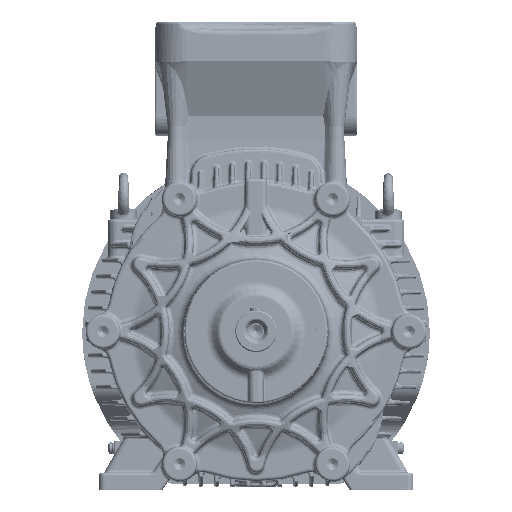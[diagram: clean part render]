
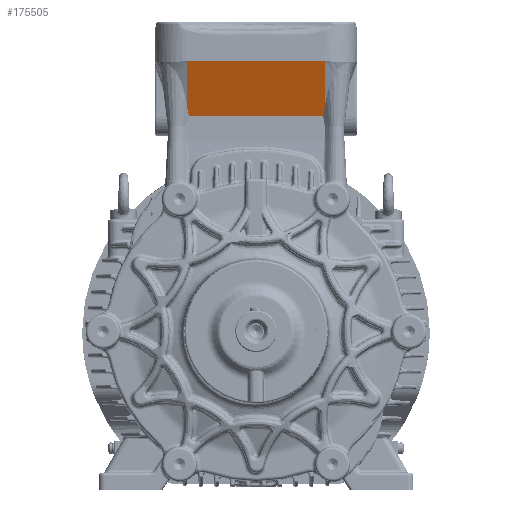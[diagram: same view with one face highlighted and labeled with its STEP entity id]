
A CAD part, top view. The second image highlights one B-rep face of the part: STEP entity #175505.
In plain terms, the highlighted planar face has unit normal (0, -0.342, 0.94).
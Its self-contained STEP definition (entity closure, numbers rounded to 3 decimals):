
#15379 = VERTEX_POINT ( 'NONE', #177046 ) ;
#18210 = LINE ( 'NONE', #69884, #216546 ) ;
#31758 = ORIENTED_EDGE ( 'NONE', *, *, #152058, .T. ) ;
#33534 = VECTOR ( 'NONE', #113603, 1000. ) ;
#35177 = CARTESIAN_POINT ( 'NONE',  ( -69.5, 226.29, 129.817 ) ) ;
#39862 = DIRECTION ( 'NONE',  ( 1., 0., 0. ) ) ;
#40455 = DIRECTION ( 'NONE',  ( -0.176, 0.925, 0.337 ) ) ;
#42384 = VECTOR ( 'NONE', #40455, 1000. ) ;
#44251 = VECTOR ( 'NONE', #39862, 1000. ) ;
#51257 = EDGE_CURVE ( 'NONE', #180551, #249013, #124529, .T. ) ;
#51736 = CARTESIAN_POINT ( 'NONE',  ( 69.5, 226.29, 129.817 ) ) ;
#56634 = CARTESIAN_POINT ( 'NONE',  ( -69.5, 273.5, 147. ) ) ;
#58603 = LINE ( 'NONE', #66804, #232950 ) ;
#60428 = LINE ( 'NONE', #131288, #33534 ) ;
#61135 = ORIENTED_EDGE ( 'NONE', *, *, #51257, .F. ) ;
#61583 = VERTEX_POINT ( 'NONE', #56634 ) ;
#66804 = CARTESIAN_POINT ( 'NONE',  ( 69.5, 273.5, 147. ) ) ;
#69884 = CARTESIAN_POINT ( 'NONE',  ( 16.529, 314.34, 161.865 ) ) ;
#70593 = DIRECTION ( 'NONE',  ( -1., 0., 0. ) ) ;
#77386 = CARTESIAN_POINT ( 'NONE',  ( -72.183, 210.82, 124.186 ) ) ;
#78038 = CARTESIAN_POINT ( 'NONE',  ( -68.054, 218.5, 126.982 ) ) ;
#82135 = DIRECTION ( 'NONE',  ( 0.451, 0.839, 0.305 ) ) ;
#82258 = CARTESIAN_POINT ( 'NONE',  ( -68.027, 218.55, 127. ) ) ;
#87926 = DIRECTION ( 'NONE',  ( 1., 0., 0. ) ) ;
#89618 = LINE ( 'NONE', #131925, #224910 ) ;
#90888 = DIRECTION ( 'NONE',  ( -0.451, 0.839, 0.305 ) ) ;
#91590 = DIRECTION ( 'NONE',  ( 0.176, 0.925, 0.337 ) ) ;
#95962 = VERTEX_POINT ( 'NONE', #160976 ) ;
#112387 = EDGE_CURVE ( 'NONE', #15379, #219771, #89618, .T. ) ;
#113603 = DIRECTION ( 'NONE',  ( 0., 0.94, 0.342 ) ) ;
#124529 = LINE ( 'NONE', #77386, #169656 ) ;
#128630 = DIRECTION ( 'NONE',  ( 0., -0.342, 0.94 ) ) ;
#131288 = CARTESIAN_POINT ( 'NONE',  ( -69.5, 273.5, 147. ) ) ;
#131925 = CARTESIAN_POINT ( 'NONE',  ( 73.898, 249.4, 138.228 ) ) ;
#135557 = CARTESIAN_POINT ( 'NONE',  ( 82.5, 218.5, 126.982 ) ) ;
#135568 = EDGE_LOOP ( 'NONE', ( #227055, #31758, #206914, #155186, #147710, #215311, #174412, #61135 ) ) ;
#143882 = FACE_OUTER_BOUND ( 'NONE', #135568, .T. ) ;
#147710 = ORIENTED_EDGE ( 'NONE', *, *, #240779, .F. ) ;
#151167 = VERTEX_POINT ( 'NONE', #35177 ) ;
#152058 = EDGE_CURVE ( 'NONE', #95962, #15379, #18210, .T. ) ;
#155186 = ORIENTED_EDGE ( 'NONE', *, *, #200405, .T. ) ;
#158419 = CARTESIAN_POINT ( 'NONE',  ( 69.5, 273.5, 147. ) ) ;
#160976 = CARTESIAN_POINT ( 'NONE',  ( 68.054, 218.5, 126.982 ) ) ;
#169656 = VECTOR ( 'NONE', #82135, 1000. ) ;
#174412 = ORIENTED_EDGE ( 'NONE', *, *, #233278, .F. ) ;
#175505 = ADVANCED_FACE ( 'NONE', ( #143882 ), #181604, .T. ) ;
#175949 = VECTOR ( 'NONE', #87926, 1000. ) ;
#177046 = CARTESIAN_POINT ( 'NONE',  ( 68.027, 218.55, 127. ) ) ;
#180551 = VERTEX_POINT ( 'NONE', #78038 ) ;
#181604 = PLANE ( 'NONE',  #229773 ) ;
#186674 = EDGE_CURVE ( 'NONE', #180551, #95962, #236674, .T. ) ;
#200405 = EDGE_CURVE ( 'NONE', #219771, #246434, #58603, .T. ) ;
#201759 = LINE ( 'NONE', #215144, #42384 ) ;
#204725 = CARTESIAN_POINT ( 'NONE',  ( -69.5, 273.5, 147. ) ) ;
#206914 = ORIENTED_EDGE ( 'NONE', *, *, #112387, .T. ) ;
#209055 = LINE ( 'NONE', #204725, #175949 ) ;
#215144 = CARTESIAN_POINT ( 'NONE',  ( -66.848, 212.357, 124.746 ) ) ;
#215311 = ORIENTED_EDGE ( 'NONE', *, *, #233159, .F. ) ;
#216546 = VECTOR ( 'NONE', #90888, 1000. ) ;
#219771 = VERTEX_POINT ( 'NONE', #51736 ) ;
#224404 = CARTESIAN_POINT ( 'NONE',  ( -69.5, 273.5, 147. ) ) ;
#224910 = VECTOR ( 'NONE', #91590, 1000. ) ;
#227055 = ORIENTED_EDGE ( 'NONE', *, *, #186674, .T. ) ;
#229773 = AXIS2_PLACEMENT_3D ( 'NONE', #224404, #128630, #70593 ) ;
#232950 = VECTOR ( 'NONE', #236589, 1000. ) ;
#233159 = EDGE_CURVE ( 'NONE', #151167, #61583, #60428, .T. ) ;
#233278 = EDGE_CURVE ( 'NONE', #249013, #151167, #201759, .T. ) ;
#236589 = DIRECTION ( 'NONE',  ( 0., 0.94, 0.342 ) ) ;
#236674 = LINE ( 'NONE', #135557, #44251 ) ;
#240779 = EDGE_CURVE ( 'NONE', #61583, #246434, #209055, .T. ) ;
#246434 = VERTEX_POINT ( 'NONE', #158419 ) ;
#249013 = VERTEX_POINT ( 'NONE', #82258 ) ;
